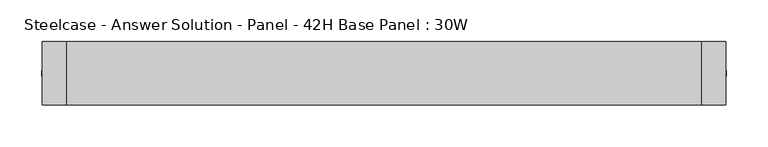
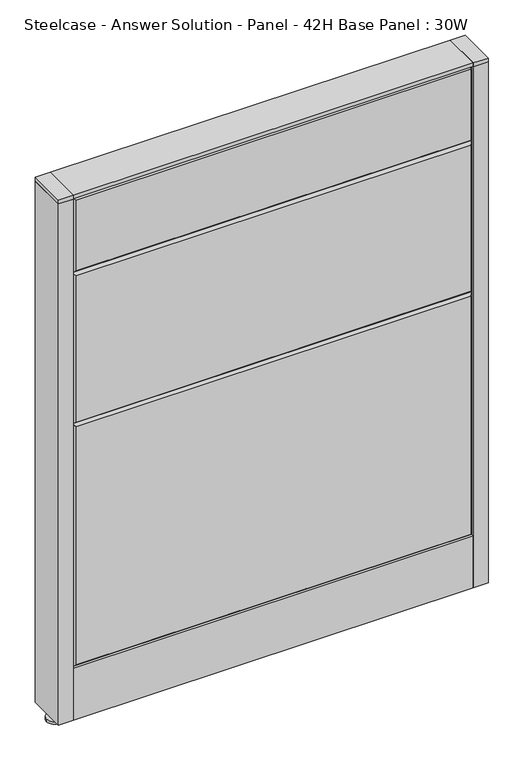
"""IFC4 building model written with IfcOpenShell, lengths in millimetres: furniture geometry, Steelcase - Answer Solution - Panel - 42H Base Panel : 30W."""

from ifc_helpers import new_model, si_unit, point, frame, frame_2d, origin, place, context, project, spatial, polyline, circle_curve, trimmed, segment, composite_curve, outline, extrude, faceted_brep, source, transform, mapped, element, save


def steelcase_answer_solution_panel_42h_base_panel_30w_7867e44a(model_context):
    return source(origin(), model_context, "Body", "SolidModel", [
        extrude(outline(composite_curve([segment(trimmed(circle_curve(frame_2d((395.224, 0.0039657)), 5.08), [point((400.304, 0.0039657))], [point((390.144, 0.0039657))], False, "CARTESIAN"), True, "CONTINUOUS"), segment(trimmed(circle_curve(frame_2d((395.224, 0.0039657)), 5.08), [point((390.144, 0.0039657))], [point((400.304, 0.0039657))], False, "CARTESIAN"), True, "CONTINUOUS")], self_intersect=False)), frame((0.0, 0.0, 5.0799671), z_axis=(0.0, 0.0, 1.0), x_axis=(1.0, 0.0, 0.0)), (0.0, 0.0, 1.0), 10.414),
        extrude(outline(composite_curve([segment(trimmed(circle_curve(frame_2d((395.224, 0.0039657)), 15.24), [point((410.464, 0.0039657))], [point((379.984, 0.0039657))], False, "CARTESIAN"), True, "CONTINUOUS"), segment(trimmed(circle_curve(frame_2d((395.224, 0.0039657)), 15.24), [point((379.984, 0.0039657))], [point((410.464, 0.0039657))], False, "CARTESIAN"), True, "CONTINUOUS")], self_intersect=False)), frame((0.0, 0.0, -3.29e-05), z_axis=(0.0, 0.0, 1.0), x_axis=(1.0, 0.0, 0.0)), (0.0, 0.0, 1.0), 5.08),
        extrude(outline(polyline([(409.575, 38.1039851), (409.575, -38.0960149), (381.0, -38.0960149), (381.0, 38.1039851), (409.575, 38.1039851)])), frame((0.0, 0.0, 1065.8348), z_axis=(0.0, 0.0, 1.0), x_axis=(1.0, 0.0, 0.0)), (0.0, 0.0, 1.0), 7.3151671),
        extrude(outline(polyline([(409.575, 38.1039851), (409.575, -38.0960149), (381.0, -38.0960149), (381.0, 38.1039851), (409.575, 38.1039851)])), frame((0.0, 0.0, 15.4939671), z_axis=(0.0, 0.0, 1.0), x_axis=(1.0, 0.0, 0.0)), (0.0, 0.0, 1.0), 1050.3408329),
        extrude(outline(composite_curve([segment(trimmed(circle_curve(frame_2d((-395.224, 0.0039657)), 5.08), [point((-400.304, 0.0039657))], [point((-390.144, 0.0039657))], False, "CARTESIAN"), True, "CONTINUOUS"), segment(trimmed(circle_curve(frame_2d((-395.224, 0.0039657)), 5.08), [point((-390.144, 0.0039657))], [point((-400.304, 0.0039657))], False, "CARTESIAN"), True, "CONTINUOUS")], self_intersect=False)), frame((0.0, 0.0, 5.0799671), z_axis=(0.0, 0.0, 1.0), x_axis=(1.0, 0.0, 0.0)), (0.0, 0.0, 1.0), 10.414),
        extrude(outline(composite_curve([segment(trimmed(circle_curve(frame_2d((-395.224, 0.0039657)), 15.24), [point((-410.464, 0.0039657))], [point((-379.984, 0.0039657))], False, "CARTESIAN"), True, "CONTINUOUS"), segment(trimmed(circle_curve(frame_2d((-395.224, 0.0039657)), 15.24), [point((-379.984, 0.0039657))], [point((-410.464, 0.0039657))], False, "CARTESIAN"), True, "CONTINUOUS")], self_intersect=False)), frame((0.0, 0.0, -3.29e-05), z_axis=(0.0, 0.0, 1.0), x_axis=(1.0, 0.0, 0.0)), (0.0, 0.0, 1.0), 5.08),
        extrude(outline(polyline([(-409.575, 38.1039851), (-381.0, 38.1039851), (-381.0, -38.0960149), (-409.575, -38.0960149), (-409.575, 38.1039851)])), frame((0.0, 0.0, 1065.8348), z_axis=(0.0, 0.0, 1.0), x_axis=(1.0, 0.0, 0.0)), (0.0, 0.0, 1.0), 7.3151671),
        extrude(outline(polyline([(-409.575, 38.1039851), (-381.0, 38.1039851), (-381.0, -38.0960149), (-409.575, -38.0960149), (-409.575, 38.1039851)])), frame((0.0, 0.0, 15.4939671), z_axis=(0.0, 0.0, 1.0), x_axis=(1.0, 0.0, 0.0)), (0.0, 0.0, 1.0), 1050.3408329),
        faceted_brep([(-376.174, 38.1635011, 1061.974), (376.174, 38.1635011, 1061.974), (376.174, 38.1635011, 919.226), (-376.174, 38.1635011, 919.226), (-381.0, 33.3375011, 1066.8), (-381.0, 33.3375011, 914.4), (381.0, 33.3375011, 914.4), (381.0, 33.3375011, 1066.8)], [[[0, 1, 2, 3]], [[4, 5, 6, 7]], [[4, 7, 1, 0]], [[7, 6, 2, 1]], [[6, 5, 3, 2]], [[5, 4, 0, 3]]]),
        faceted_brep([(-376.174, 38.1635011, 909.574), (376.174, 38.1635011, 909.574), (376.174, 38.1635011, 614.426), (-376.174, 38.1635011, 614.426), (-381.0, 33.3375011, 914.4), (-381.0, 33.3375011, 609.6), (381.0, 33.3375011, 609.6), (381.0, 33.3375011, 914.4)], [[[0, 1, 2, 3]], [[4, 5, 6, 7]], [[4, 7, 1, 0]], [[7, 6, 2, 1]], [[6, 5, 3, 2]], [[5, 4, 0, 3]]]),
        faceted_brep([(-376.174, 38.1635011, 604.774), (376.174, 38.1635011, 604.774), (376.174, 38.1635011, 125.476), (-376.174, 38.1635011, 125.476), (-381.0, 33.3375011, 609.6), (-381.0, 33.3375011, 120.65), (381.0, 33.3375011, 120.65), (381.0, 33.3375011, 609.6)], [[[0, 1, 2, 3]], [[4, 5, 6, 7]], [[4, 7, 1, 0]], [[7, 6, 2, 1]], [[6, 5, 3, 2]], [[5, 4, 0, 3]]]),
        faceted_brep([(376.174, -38.1635011, 1061.974), (-376.174, -38.1635011, 1061.974), (-376.174, -38.1635011, 919.226), (376.174, -38.1635011, 919.226), (381.0, -33.3375011, 1066.8), (381.0, -33.3375011, 914.4), (-381.0, -33.3375011, 914.4), (-381.0, -33.3375011, 1066.8)], [[[0, 1, 2, 3]], [[4, 5, 6, 7]], [[4, 7, 1, 0]], [[7, 6, 2, 1]], [[6, 5, 3, 2]], [[5, 4, 0, 3]]]),
        faceted_brep([(376.174, -38.1635011, 909.574), (-376.174, -38.1635011, 909.574), (-376.174, -38.1635011, 614.426), (376.174, -38.1635011, 614.426), (381.0, -33.3375011, 914.4), (381.0, -33.3375011, 609.6), (-381.0, -33.3375011, 609.6), (-381.0, -33.3375011, 914.4)], [[[0, 1, 2, 3]], [[4, 5, 6, 7]], [[4, 7, 1, 0]], [[7, 6, 2, 1]], [[6, 5, 3, 2]], [[5, 4, 0, 3]]]),
        faceted_brep([(376.174, -38.1635011, 604.774), (-376.174, -38.1635011, 604.774), (-376.174, -38.1635011, 125.476), (376.174, -38.1635011, 125.476), (381.0, -33.3375011, 609.6), (381.0, -33.3375011, 120.65), (-381.0, -33.3375011, 120.65), (-381.0, -33.3375011, 609.6)], [[[0, 1, 2, 3]], [[4, 5, 6, 7]], [[4, 7, 1, 0]], [[7, 6, 2, 1]], [[6, 5, 3, 2]], [[5, 4, 0, 3]]]),
        extrude(outline(polyline([(381.0, 38.1000194), (381.0, -38.1000194), (-381.0, -38.1000194), (-381.0, 38.1000194), (381.0, 38.1000194)])), frame((0.0, 0.0, 1066.8), z_axis=(0.0, 0.0, 1.0), x_axis=(1.0, 0.0, 0.0)), (0.0, 0.0, 1.0), 6.35),
        extrude(outline(polyline([(25.4000011, 119.8575157), (25.4000011, 120.65), (38.1000194, 120.65), (38.1000194, 15.494), (37.3075215, 15.494), (37.3075215, 119.8575157), (25.4000011, 119.8575157)])), frame((-381.0, 0.0, 0.0), z_axis=(1.0, 0.0, 0.0), x_axis=(0.0, 1.0, 0.0)), (0.0, 0.0, 1.0), 762.0),
        extrude(outline(polyline([(-25.4000011, 119.8575157), (-37.3075215, 119.8575157), (-37.3075215, 15.494), (-38.1000194, 15.494), (-38.1000194, 120.65), (-25.4000011, 120.65), (-25.4000011, 119.8575157)])), frame((-381.0, 0.0, 0.0), z_axis=(1.0, 0.0, 0.0), x_axis=(0.0, 1.0, 0.0)), (0.0, 0.0, 1.0), 762.0),
    ])


if __name__ == "__main__":
    model = new_model("IFC4")
    model_context = context("Model", 3, world=origin())
    ifc_project = project(units=[si_unit("LENGTHUNIT", "METRE", prefix="MILLI")], contexts=[model_context])
    site = spatial("IfcSite", under=ifc_project)
    building = spatial("IfcBuilding", under=site)
    placement = place(None, origin())
    steelcase_answer_solution_panel_42h_base_panel_30w_shape = steelcase_answer_solution_panel_42h_base_panel_30w_7867e44a(model_context)
    element("IfcFurniture", 1, ObjectType="Steelcase - Answer Solution - Panel - 42H Base Panel : 30W", at=placement, inside=building, context=model_context, shape_type="MappedRepresentation", body=[
        mapped(steelcase_answer_solution_panel_42h_base_panel_30w_shape, transform((0.0, 0.0, 0.0), x_axis=(1.0, 0.0, 0.0), y_axis=(0.0, 1.0, 0.0), z_axis=(0.0, 0.0, 1.0))),
    ])
    save(model, "model.ifc")
